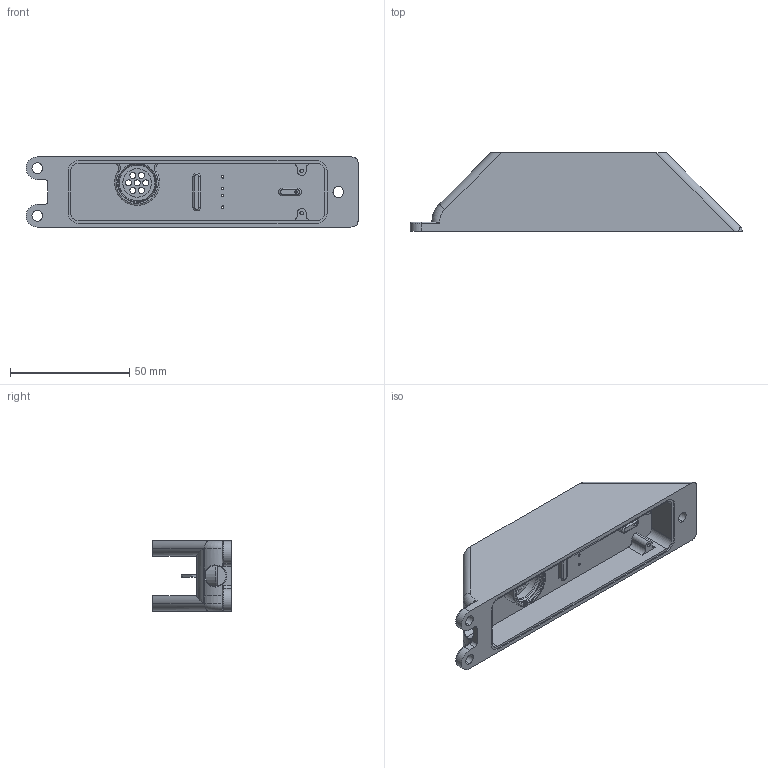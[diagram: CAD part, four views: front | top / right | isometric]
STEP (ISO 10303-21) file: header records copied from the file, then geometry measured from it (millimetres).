
FILE_DESCRIPTION (( 'STEP AP214' ), '1' );
FILE_NAME ('10055 Integrated base aft connect RevB.STEP', '2025-04-28T03:12:16', ( '' ), ( '' ), 'SwSTEP 2.0', 'SolidWorks 2023', '' );
FILE_SCHEMA (( 'AUTOMOTIVE_DESIGN' ));
Length unit declared in the file: inch
Products named in the file (1): 10055 Integrated base aft connect RevB
Bounding box: 139.38 x 33.02 x 29.46 mm (x, y, z)
Volume: 41570.7 mm3; surface area: 24128.8 mm2
Topology: 1 solids, 1 shells, 215 faces, 558 edges, 346 vertices
Faces by surface type: cylinder 117, plane 53, torus 22, cone 18, bspline 5
Entity records: 7095 total; most frequent: CARTESIAN_POINT 1649, DIRECTION 1164, ORIENTED_EDGE 1084, EDGE_CURVE 542, AXIS2_PLACEMENT_3D 457, VERTEX_POINT 346, EDGE_LOOP 264, VECTOR 250
